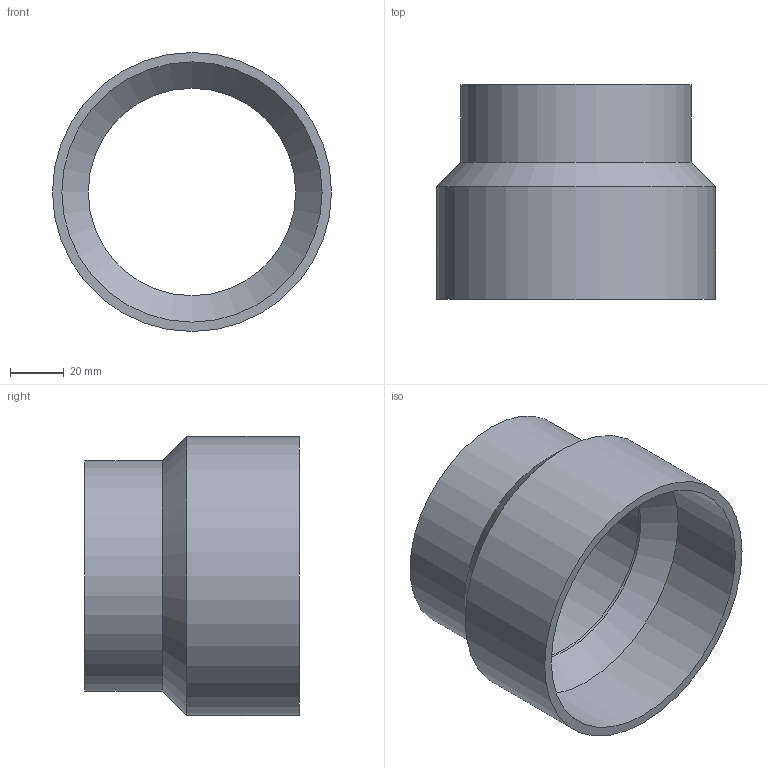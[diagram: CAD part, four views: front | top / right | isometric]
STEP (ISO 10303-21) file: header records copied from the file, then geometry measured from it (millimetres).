
FILE_DESCRIPTION(/* description */ (''),/* implementation_level */ '2;1');
FILE_NAME(/* name */ 'P:\Adapter\Schweißstutzen und Schweißadapter\A 104a_80i.stp',/* time_stamp */ '2019-04-01T13:23:20+02:00',/* author */ ('neufeld'),/* organization */ (''),/* preprocessor_version */ 'ST-DEVELOPER v17',/* originating_system */ 'Autodesk Inventor 2019',/* authorisation */ '');
FILE_SCHEMA (('AUTOMOTIVE_DESIGN { 1 0 10303 214 3 1 1 }'));
Length unit declared in the file: millimetre
Products named in the file (1): A 104a_80i
Bounding box: 104 x 80 x 104 mm (x, y, z)
Volume: 105213 mm3; surface area: 50660.2 mm2
Topology: 1 solids, 1 shells, 10 faces, 27 edges, 20 vertices
Faces by surface type: cylinder 5, plane 3, cone 2
Full cylindrical faces by diameter (mm): 77.3 x1, 80.3 x1, 86 x1, 97 x1, 104 x1
Entity records: 382 total; most frequent: DIRECTION 69, CARTESIAN_POINT 58, ORIENTED_EDGE 54, AXIS2_PLACEMENT_3D 31, EDGE_CURVE 27, CIRCLE 20, VERTEX_POINT 20, EDGE_LOOP 13
